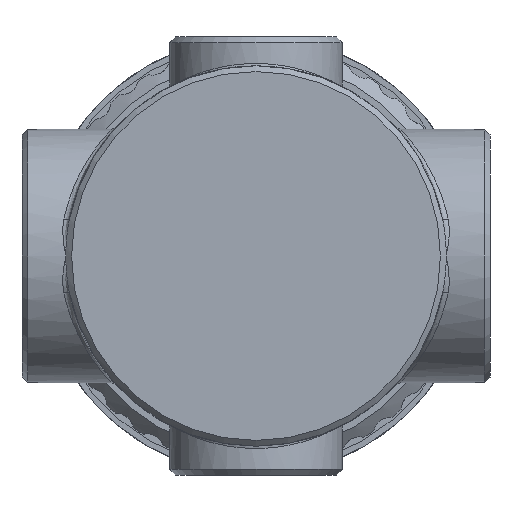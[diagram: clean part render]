
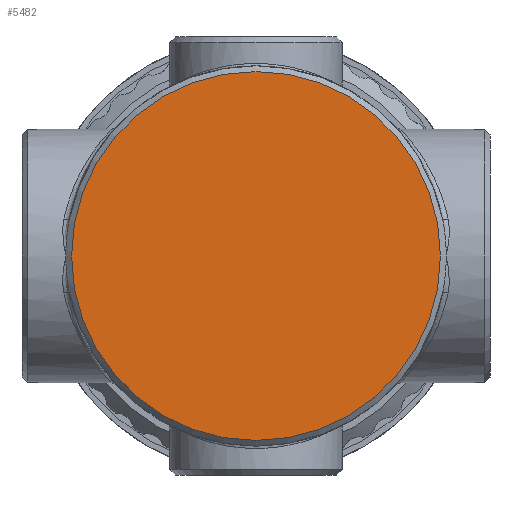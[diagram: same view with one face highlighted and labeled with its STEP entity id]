
A CAD part, front view. The second image highlights one B-rep face of the part: STEP entity #5482.
In plain terms, the highlighted planar face has unit normal (0, -1, 0).
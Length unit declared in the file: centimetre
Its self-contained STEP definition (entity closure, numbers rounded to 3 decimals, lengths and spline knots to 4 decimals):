
#1136=FACE_OUTER_BOUND('',#1509,.T.);
#1509=EDGE_LOOP('',(#4756));
#1957=CIRCLE('',#5894,1.6);
#2481=VERTEX_POINT('',#26479);
#3187=EDGE_CURVE('',#2481,#2481,#1957,.T.);
#4756=ORIENTED_EDGE('',*,*,#3187,.T.);
#5192=PLANE('',#6060);
#5482=ADVANCED_FACE('',(#1136),#5192,.T.);
#5894=AXIS2_PLACEMENT_3D('',#26480,#7050,#7051);
#6060=AXIS2_PLACEMENT_3D('',#28557,#7448,#7449);
#7050=DIRECTION('center_axis',(0.,-1.,0.));
#7051=DIRECTION('ref_axis',(0.,0.,-1.));
#7448=DIRECTION('center_axis',(0.,-1.,0.));
#7449=DIRECTION('ref_axis',(0.,0.,-1.));
#26479=CARTESIAN_POINT('',(0.,0.,1.6));
#26480=CARTESIAN_POINT('Origin',(0.,0.,0.));
#28557=CARTESIAN_POINT('Origin',(0.,0.,0.));
